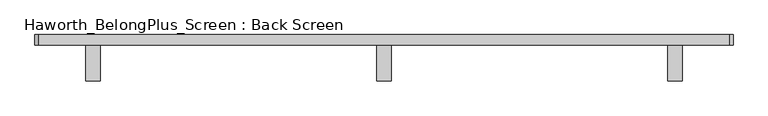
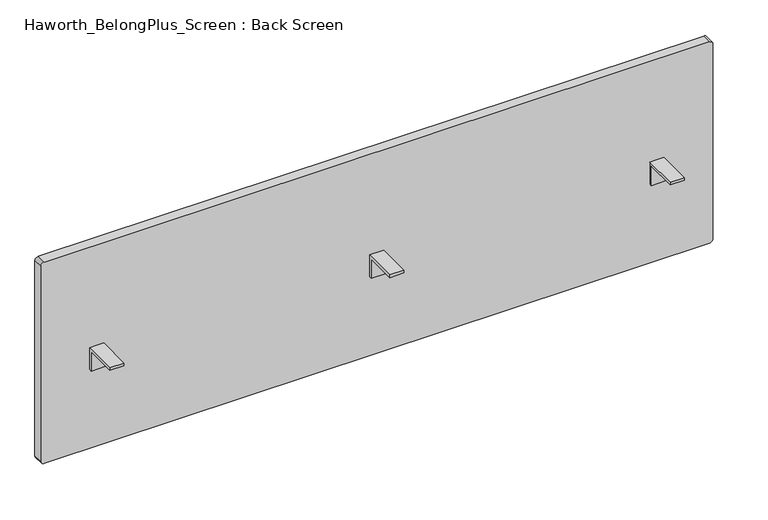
"""IFC4 building model written with IfcOpenShell, lengths in millimetres: furniture geometry, Haworth_BelongPlus_Screen : Back Screen."""

from ifc_helpers import new_model, si_unit, point, frame, frame_2d, origin, place, context, project, spatial, polyline, circle_curve, trimmed, segment, composite_curve, outline, extrude, source, transform, mapped, element, save


def haworth_belongplus_screen_back_screen_fe709fc9(model_context):
    return source(origin(), model_context, "Body", "SweptSolid", [
        extrude(outline(polyline([(-11.1125, 617.5375), (-11.1125, 565.15), (-17.4625, 565.15), (-17.4625, 611.1875), (-90.4875, 611.1875), (-90.4875, 617.5375), (-11.1125, 617.5375)])), frame((586.4604564, 0.0, 0.0), z_axis=(1.0, 0.0, 0.0), x_axis=(0.0, 1.0, 0.0)), (0.0, 0.0, 1.0), 31.75),
        extrude(outline(polyline([(-11.1125, 617.5375), (-11.1125, 565.15), (-17.4625, 565.15), (-17.4625, 611.1875), (-90.4875, 611.1875), (-90.4875, 617.5375), (-11.1125, 617.5375)])), frame((-683.5395436, 0.0, 0.0), z_axis=(1.0, 0.0, 0.0), x_axis=(0.0, 1.0, 0.0)), (0.0, 0.0, 1.0), 31.75),
        extrude(outline(polyline([(-11.1125, 617.5375), (-11.1125, 565.15), (-17.4625, 565.15), (-17.4625, 611.1875), (-90.4875, 611.1875), (-90.4875, 617.5375), (-11.1125, 617.5375)])), frame((-48.5395436, 0.0, 0.0), z_axis=(1.0, 0.0, 0.0), x_axis=(0.0, 1.0, 0.0)), (0.0, 0.0, 1.0), 31.75),
        extrude(outline(composite_curve([segment(polyline([(858.8375, 721.3979564), (858.8375, -786.7270436)]), True, "CONTINUOUS"), segment(trimmed(circle_curve(frame_2d((850.9, -786.7270436)), 7.9375), [point((858.8375, -786.7270436))], [point((850.9, -794.6645436))], False, "CARTESIAN"), True, "CONTINUOUS"), segment(polyline([(850.9, -794.6645436), (384.175, -794.6645436)]), True, "CONTINUOUS"), segment(trimmed(circle_curve(frame_2d((384.175, -786.7270436)), 7.9375), [point((384.175, -794.6645436))], [point((376.2375, -786.7270436))], False, "CARTESIAN"), True, "CONTINUOUS"), segment(polyline([(376.2375, -786.7270436), (376.2375, 721.3979564)]), True, "CONTINUOUS"), segment(trimmed(circle_curve(frame_2d((384.175, 721.3979564)), 7.9375), [point((376.2375, 721.3979564))], [point((384.175, 729.3354564))], False, "CARTESIAN"), True, "CONTINUOUS"), segment(polyline([(384.175, 729.3354564), (850.9, 729.3354564)]), True, "CONTINUOUS"), segment(trimmed(circle_curve(frame_2d((850.9, 721.3979564)), 7.9375), [point((850.9, 729.3354564))], [point((858.8375, 721.3979564))], False, "CARTESIAN"), True, "CONTINUOUS")], self_intersect=False)), frame((0.0, -11.1125, 0.0), z_axis=(0.0, 1.0, 0.0), x_axis=(0.0, 0.0, 1.0)), (0.0, 0.0, 1.0), 22.225),
    ])


if __name__ == "__main__":
    model = new_model("IFC4")
    model_context = context("Model", 3, world=origin())
    ifc_project = project(units=[si_unit("LENGTHUNIT", "METRE", prefix="MILLI")], contexts=[model_context])
    site = spatial("IfcSite", under=ifc_project)
    building = spatial("IfcBuilding", under=site)
    placement = place(None, origin())
    haworth_belongplus_screen_back_screen_shape = haworth_belongplus_screen_back_screen_fe709fc9(model_context)
    element("IfcFurniture", 1, ObjectType="Haworth_BelongPlus_Screen : Back Screen", at=placement, inside=building, context=model_context, shape_type="MappedRepresentation", body=[
        mapped(haworth_belongplus_screen_back_screen_shape, transform((0.0, 0.0, 0.0), x_axis=(1.0, 0.0, 0.0), y_axis=(0.0, 1.0, 0.0), z_axis=(0.0, 0.0, 1.0))),
    ])
    save(model, "model.ifc")
